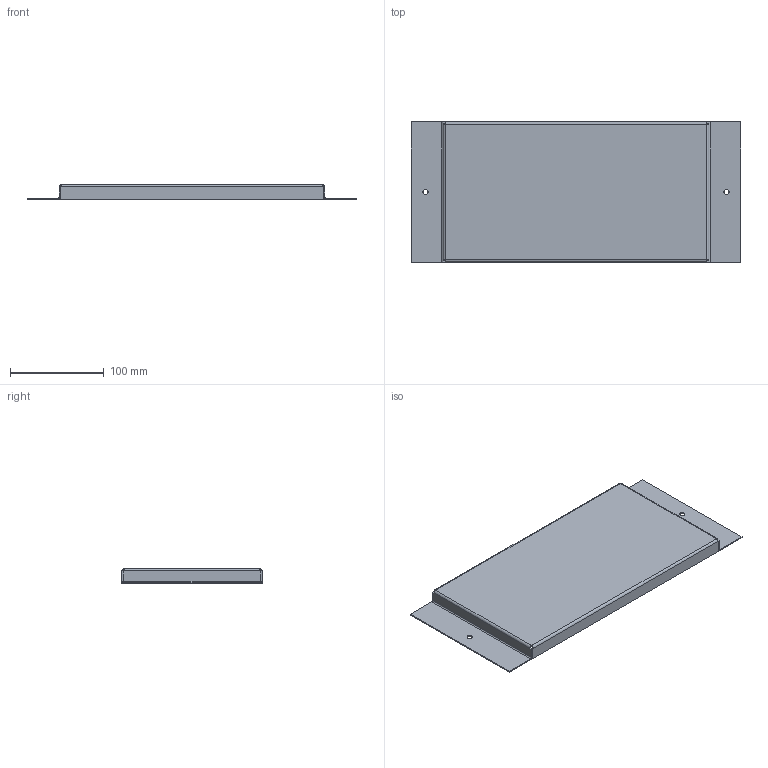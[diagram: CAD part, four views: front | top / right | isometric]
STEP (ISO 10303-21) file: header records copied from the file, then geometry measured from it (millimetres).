
FILE_DESCRIPTION (( 'STEP AP203' ), '1' );
FILE_NAME ('MB 15.35 Ïàíåëü ìîäóëüíàÿ.STEP', '2012-12-05T07:59:23', ( 'Àëåêñàíäð' ), ( 'Ïðîâåíòî' ), 'SwSTEP 2.0', 'SolidWorks 2012', '' );
FILE_SCHEMA (( 'CONFIG_CONTROL_DESIGN' ));
Length unit declared in the file: millimetre
Products named in the file (1): MB 15.35 Ïàíåëü ìîäóëüíàÿ
Bounding box: 350.6 x 149 x 15.6 mm (x, y, z)
Volume: 76356.7 mm3; surface area: 128661.5 mm2
Topology: 1 solids, 1 shells, 66 faces, 144 edges, 80 vertices
Faces by surface type: plane 50, cylinder 16
Entity records: 1821 total; most frequent: DIRECTION 310, CARTESIAN_POINT 291, ORIENTED_EDGE 288, EDGE_CURVE 144, LINE 112, VECTOR 112, AXIS2_PLACEMENT_3D 99, VERTEX_POINT 80
